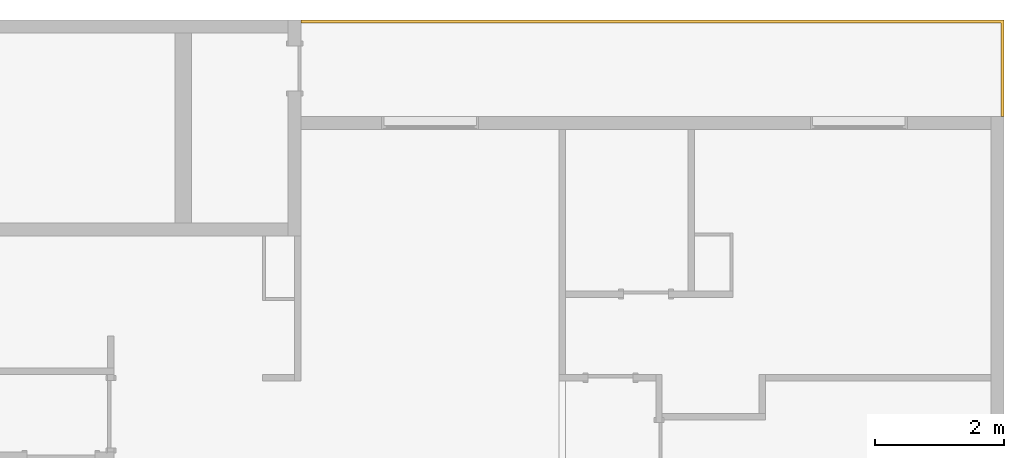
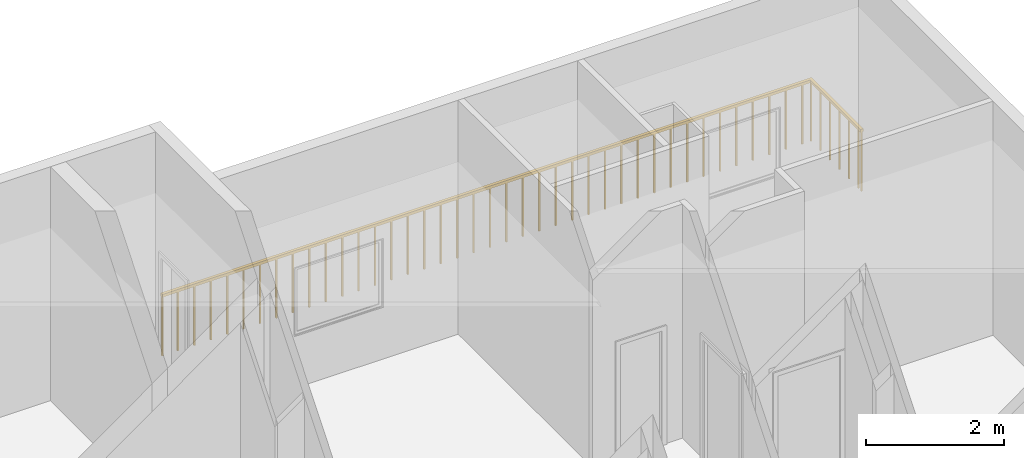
# One storey, part 8 of 8: 1 railing.
"""IFC2X3 building model written with IfcOpenShell, lengths in metres."""

from ifc_helpers import new_model, entity, si_unit, converted_unit, derived_unit, direction, frame, origin, place, context, subcontext, project, spatial, faceted_brep, material, material_list, element, save


model = new_model("IFC2X3")

# Units and contexts
model_context = context("Model", 3, precision=1e-05, world=origin(), true_north=direction((6.123031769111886e-17, 1.0)))
body_context = subcontext(model_context, "Body", "Model", "MODEL_VIEW")
ifc_project = project(units=[si_unit("LENGTHUNIT", "METRE"), si_unit("AREAUNIT", "SQUARE_METRE"), si_unit("VOLUMEUNIT", "CUBIC_METRE"), converted_unit("PLANEANGLEUNIT", "DEGREE", entity("IfcRatioMeasure", 0.017453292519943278), si_unit("PLANEANGLEUNIT", "RADIAN"), dimensions=[0, 0, 0, 0, 0, 0, 0]), si_unit("MASSUNIT", "GRAM", prefix="KILO"), derived_unit("MASSDENSITYUNIT", [(si_unit("MASSUNIT", "GRAM", prefix="KILO"), 1), (si_unit("LENGTHUNIT", "METRE"), -3)]), derived_unit("MOMENTOFINERTIAUNIT", [(si_unit("LENGTHUNIT", "METRE"), 4)]), si_unit("TIMEUNIT", "SECOND"), si_unit("FREQUENCYUNIT", "HERTZ"), si_unit("THERMODYNAMICTEMPERATUREUNIT", "DEGREE_CELSIUS"), derived_unit("THERMALTRANSMITTANCEUNIT", [(si_unit("MASSUNIT", "GRAM", prefix="KILO"), 1), (si_unit("THERMODYNAMICTEMPERATUREUNIT", "KELVIN"), -1), (si_unit("TIMEUNIT", "SECOND"), -3)]), derived_unit("VOLUMETRICFLOWRATEUNIT", [(si_unit("LENGTHUNIT", "METRE"), 3), (si_unit("TIMEUNIT", "SECOND"), -1)]), derived_unit("MASSFLOWRATEUNIT", [(si_unit("MASSUNIT", "GRAM", prefix="KILO"), 1), (si_unit("TIMEUNIT", "SECOND"), -1)]), derived_unit("ROTATIONALFREQUENCYUNIT", [(si_unit("TIMEUNIT", "SECOND"), -1)]), si_unit("ELECTRICCURRENTUNIT", "AMPERE"), si_unit("ELECTRICVOLTAGEUNIT", "VOLT"), si_unit("POWERUNIT", "WATT"), si_unit("FORCEUNIT", "NEWTON", prefix="KILO"), si_unit("ILLUMINANCEUNIT", "LUX"), si_unit("LUMINOUSFLUXUNIT", "LUMEN"), si_unit("LUMINOUSINTENSITYUNIT", "CANDELA"), derived_unit("USERDEFINED", [(si_unit("MASSUNIT", "GRAM", prefix="KILO"), -1), (si_unit("LENGTHUNIT", "METRE"), -2), (si_unit("TIMEUNIT", "SECOND"), 3), (si_unit("LUMINOUSFLUXUNIT", "LUMEN"), 1)]), derived_unit("SOUNDPOWERUNIT", [(si_unit("MASSUNIT", "GRAM", prefix="KILO"), 1), (si_unit("LENGTHUNIT", "METRE"), 2), (si_unit("TIMEUNIT", "SECOND"), -3)]), derived_unit("SOUNDPRESSUREUNIT", [(si_unit("MASSUNIT", "GRAM", prefix="KILO"), 1), (si_unit("LENGTHUNIT", "METRE"), -1), (si_unit("TIMEUNIT", "SECOND"), -2)]), derived_unit("LINEARVELOCITYUNIT", [(si_unit("LENGTHUNIT", "METRE"), 1), (si_unit("TIMEUNIT", "SECOND"), -1)]), si_unit("PRESSUREUNIT", "PASCAL"), derived_unit("USERDEFINED", [(si_unit("LENGTHUNIT", "METRE"), -2), (si_unit("MASSUNIT", "GRAM", prefix="KILO"), 1), (si_unit("TIMEUNIT", "SECOND"), -2)]), derived_unit("LINEARFORCEUNIT", [(si_unit("MASSUNIT", "GRAM", prefix="KILO"), 1), (si_unit("LENGTHUNIT", "METRE"), 1), (si_unit("TIMEUNIT", "SECOND"), -2), (si_unit("LENGTHUNIT", "METRE"), -1)]), derived_unit("PLANARFORCEUNIT", [(si_unit("MASSUNIT", "GRAM", prefix="KILO"), 1), (si_unit("LENGTHUNIT", "METRE"), 1), (si_unit("TIMEUNIT", "SECOND"), -2), (si_unit("LENGTHUNIT", "METRE"), -2)])], contexts=[model_context])

# Site, building, storey
site_placement = place(None, origin())
site = spatial("IfcSite", under=ifc_project, at=site_placement, Name="Default", CompositionType="ELEMENT")
building_placement = place(site_placement, origin())
building = spatial("IfcBuilding", under=site, at=building_placement, CompositionType="ELEMENT")
storey_placement = place(building_placement, frame((0.0, 0.0, 1.1999999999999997)))
storey = spatial("IfcBuildingStorey", under=building, at=storey_placement, Name="G0", CompositionType="ELEMENT", Elevation=1.1999999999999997)

# Railing
ifc_material = material(Name="<Unnamed>")
ifc_material_list = material_list([ifc_material, ifc_material, ifc_material, ifc_material, ifc_material, ifc_material, ifc_material, ifc_material, ifc_material, ifc_material, ifc_material, ifc_material, ifc_material, ifc_material, ifc_material, ifc_material, ifc_material, ifc_material, ifc_material, ifc_material, ifc_material, ifc_material, ifc_material, ifc_material, ifc_material, ifc_material, ifc_material, ifc_material, ifc_material, ifc_material, ifc_material, ifc_material, ifc_material, ifc_material, ifc_material, ifc_material, ifc_material, ifc_material, ifc_material, ifc_material, ifc_material, ifc_material, ifc_material, ifc_material, ifc_material, ifc_material, ifc_material, ifc_material])
railing_placement = place(storey_placement, frame((18.007683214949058, 4.497690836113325, 0.0)))
element("IfcRailing", 1, at=railing_placement, inside=storey, material=ifc_material_list, Name="Railing:1100mm", ObjectType="Railing:1100mm", PredefinedType="NOTDEFINED", context=body_context, shape_type="Brep", body=[
    faceted_brep([(10.887499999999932, 0.11250000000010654, 1.0499999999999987), (10.887499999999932, 0.11250000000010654, 0.0), (10.862499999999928, 0.11250000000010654, 0.0), (10.862499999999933, 0.11250000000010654, 1.0499999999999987), (10.862499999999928, 0.0875000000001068, 0.0), (10.862499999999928, 0.08750000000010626, 1.0499999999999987), (10.887499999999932, 0.0875000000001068, 0.0), (10.887499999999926, 0.0875000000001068, 1.0499999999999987)], [[[0, 1, 2, 3]], [[3, 2, 4, 5]], [[5, 4, 6, 7]], [[1, 0, 7, 6]], [[0, 3, 5, 7]], [[2, 1, 6, 4]]]),
    faceted_brep([(10.887499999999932, 0.38750000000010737, 1.0499999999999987), (10.887499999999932, 0.38750000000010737, 0.0), (10.862499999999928, 0.38750000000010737, 0.0), (10.862499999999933, 0.38750000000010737, 1.0499999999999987), (10.862499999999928, 0.36250000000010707, 0.0), (10.862499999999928, 0.3625000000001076, 1.0499999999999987), (10.887499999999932, 0.36250000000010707, 0.0), (10.887499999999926, 0.36250000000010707, 1.0499999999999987)], [[[0, 1, 2, 3]], [[3, 2, 4, 5]], [[5, 4, 6, 7]], [[1, 0, 7, 6]], [[0, 3, 5, 7]], [[2, 1, 6, 4]]]),
    faceted_brep([(10.887499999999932, 0.6625000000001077, 1.0499999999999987), (10.887499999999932, 0.6625000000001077, 0.0), (10.862499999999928, 0.6625000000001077, 0.0), (10.862499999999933, 0.6625000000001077, 1.0499999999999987), (10.862499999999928, 0.6375000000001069, 0.0), (10.862499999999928, 0.637500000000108, 1.0499999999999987), (10.887499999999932, 0.6375000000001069, 0.0), (10.887499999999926, 0.6375000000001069, 1.0499999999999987)], [[[0, 1, 2, 3]], [[3, 2, 4, 5]], [[5, 4, 6, 7]], [[1, 0, 7, 6]], [[0, 3, 5, 7]], [[2, 1, 6, 4]]]),
    faceted_brep([(10.887499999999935, 0.9375000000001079, 1.0499999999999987), (10.887499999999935, 0.9375000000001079, 0.0), (10.862499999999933, 0.9375000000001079, 0.0), (10.862499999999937, 0.9375000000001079, 1.0499999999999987), (10.862499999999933, 0.9125000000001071, 0.0), (10.862499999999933, 0.9125000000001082, 1.0499999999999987), (10.887499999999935, 0.9125000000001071, 0.0), (10.887499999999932, 0.9125000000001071, 1.0499999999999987)], [[[0, 1, 2, 3]], [[3, 2, 4, 5]], [[5, 4, 6, 7]], [[1, 0, 7, 6]], [[0, 3, 5, 7]], [[2, 1, 6, 4]]]),
    faceted_brep([(10.887499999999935, 1.2125000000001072, 1.0499999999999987), (10.887499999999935, 1.2125000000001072, 0.0), (10.862499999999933, 1.2125000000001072, 0.0), (10.862499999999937, 1.2125000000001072, 1.0499999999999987), (10.862499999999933, 1.1875000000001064, 0.0), (10.862499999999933, 1.1875000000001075, 1.0499999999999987), (10.887499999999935, 1.1875000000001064, 0.0), (10.887499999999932, 1.1875000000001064, 1.0499999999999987)], [[[0, 1, 2, 3]], [[3, 2, 4, 5]], [[5, 4, 6, 7]], [[1, 0, 7, 6]], [[0, 3, 5, 7]], [[2, 1, 6, 4]]]),
    faceted_brep([(10.712500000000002, 1.4875000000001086, 1.0499999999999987), (10.712500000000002, 1.4875000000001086, 0.0), (10.712500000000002, 1.4625000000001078, 0.0), (10.712500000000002, 1.4625000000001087, 1.0499999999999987), (10.737500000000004, 1.4625000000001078, 0.0), (10.7375, 1.4625000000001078, 1.0499999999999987), (10.737500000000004, 1.4875000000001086, 0.0), (10.737500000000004, 1.4875000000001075, 1.0499999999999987)], [[[0, 1, 2, 3]], [[3, 2, 4, 5]], [[5, 4, 6, 7]], [[1, 0, 7, 6]], [[0, 3, 5, 7]], [[2, 1, 6, 4]]]),
    faceted_brep([(10.437500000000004, 1.4875000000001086, 1.0499999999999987), (10.437500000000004, 1.4875000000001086, 0.0), (10.437500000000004, 1.4625000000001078, 0.0), (10.437500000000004, 1.4625000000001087, 1.0499999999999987), (10.462500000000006, 1.4625000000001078, 0.0), (10.462500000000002, 1.4625000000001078, 1.0499999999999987), (10.462500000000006, 1.4875000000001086, 0.0), (10.462500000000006, 1.4875000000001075, 1.0499999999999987)], [[[0, 1, 2, 3]], [[3, 2, 4, 5]], [[5, 4, 6, 7]], [[1, 0, 7, 6]], [[0, 3, 5, 7]], [[2, 1, 6, 4]]]),
    faceted_brep([(10.162500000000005, 1.4875000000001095, 1.0499999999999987), (10.162500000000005, 1.4875000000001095, 0.0), (10.162500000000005, 1.4625000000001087, 0.0), (10.162500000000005, 1.4625000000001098, 1.0499999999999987), (10.187500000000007, 1.4625000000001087, 0.0), (10.187500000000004, 1.4625000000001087, 1.0499999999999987), (10.187500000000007, 1.4875000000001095, 0.0), (10.187500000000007, 1.4875000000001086, 1.0499999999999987)], [[[0, 1, 2, 3]], [[3, 2, 4, 5]], [[5, 4, 6, 7]], [[1, 0, 7, 6]], [[0, 3, 5, 7]], [[2, 1, 6, 4]]]),
    faceted_brep([(9.887499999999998, 1.4875000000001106, 1.0499999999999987), (9.887499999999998, 1.4875000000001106, 0.0), (9.887499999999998, 1.4625000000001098, 0.0), (9.887499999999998, 1.462500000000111, 1.0499999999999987), (9.912500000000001, 1.4625000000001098, 0.0), (9.912499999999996, 1.4625000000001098, 1.0499999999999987), (9.912500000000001, 1.4875000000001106, 0.0), (9.912500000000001, 1.4875000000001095, 1.0499999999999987)], [[[0, 1, 2, 3]], [[3, 2, 4, 5]], [[5, 4, 6, 7]], [[1, 0, 7, 6]], [[0, 3, 5, 7]], [[2, 1, 6, 4]]]),
    faceted_brep([(9.6125, 1.4875000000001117, 1.0499999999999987), (9.6125, 1.4875000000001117, 0.0), (9.6125, 1.462500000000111, 0.0), (9.6125, 1.462500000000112, 1.0499999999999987), (9.637500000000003, 1.462500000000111, 0.0), (9.6375, 1.462500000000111, 1.0499999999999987), (9.637500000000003, 1.4875000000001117, 0.0), (9.637500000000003, 1.4875000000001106, 1.0499999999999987)], [[[0, 1, 2, 3]], [[3, 2, 4, 5]], [[5, 4, 6, 7]], [[1, 0, 7, 6]], [[0, 3, 5, 7]], [[2, 1, 6, 4]]]),
    faceted_brep([(9.337500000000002, 1.4875000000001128, 1.0499999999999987), (9.337500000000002, 1.4875000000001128, 0.0), (9.337500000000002, 1.462500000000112, 0.0), (9.337500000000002, 1.4625000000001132, 1.0499999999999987), (9.362500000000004, 1.462500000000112, 0.0), (9.3625, 1.462500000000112, 1.0499999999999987), (9.362500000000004, 1.4875000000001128, 0.0), (9.362500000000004, 1.4875000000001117, 1.0499999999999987)], [[[0, 1, 2, 3]], [[3, 2, 4, 5]], [[5, 4, 6, 7]], [[1, 0, 7, 6]], [[0, 3, 5, 7]], [[2, 1, 6, 4]]]),
    faceted_brep([(9.062500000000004, 1.487500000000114, 1.0499999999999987), (9.062500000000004, 1.487500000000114, 0.0), (9.062500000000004, 1.4625000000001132, 0.0), (9.062500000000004, 1.4625000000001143, 1.0499999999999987), (9.087500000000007, 1.4625000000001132, 0.0), (9.087500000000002, 1.4625000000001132, 1.0499999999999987), (9.087500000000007, 1.487500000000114, 0.0), (9.087500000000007, 1.4875000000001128, 1.0499999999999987)], [[[0, 1, 2, 3]], [[3, 2, 4, 5]], [[5, 4, 6, 7]], [[1, 0, 7, 6]], [[0, 3, 5, 7]], [[2, 1, 6, 4]]]),
    faceted_brep([(8.787500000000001, 1.487500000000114, 1.0499999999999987), (8.787500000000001, 1.487500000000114, 0.0), (8.787500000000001, 1.4625000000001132, 0.0), (8.787500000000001, 1.4625000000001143, 1.0499999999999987), (8.812500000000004, 1.4625000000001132, 0.0), (8.8125, 1.4625000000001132, 1.0499999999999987), (8.812500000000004, 1.487500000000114, 0.0), (8.812500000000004, 1.4875000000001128, 1.0499999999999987)], [[[0, 1, 2, 3]], [[3, 2, 4, 5]], [[5, 4, 6, 7]], [[1, 0, 7, 6]], [[0, 3, 5, 7]], [[2, 1, 6, 4]]]),
    faceted_brep([(8.5125, 1.487500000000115, 1.0499999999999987), (8.5125, 1.487500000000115, 0.0), (8.5125, 1.4625000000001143, 0.0), (8.5125, 1.4625000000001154, 1.0499999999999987), (8.537500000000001, 1.4625000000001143, 0.0), (8.537499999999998, 1.4625000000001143, 1.0499999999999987), (8.537500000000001, 1.487500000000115, 0.0), (8.537500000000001, 1.487500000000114, 1.0499999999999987)], [[[0, 1, 2, 3]], [[3, 2, 4, 5]], [[5, 4, 6, 7]], [[1, 0, 7, 6]], [[0, 3, 5, 7]], [[2, 1, 6, 4]]]),
    faceted_brep([(8.2375, 1.4875000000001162, 1.0499999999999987), (8.2375, 1.4875000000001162, 0.0), (8.2375, 1.4625000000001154, 0.0), (8.2375, 1.4625000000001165, 1.0499999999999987), (8.262500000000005, 1.4625000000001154, 0.0), (8.2625, 1.4625000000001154, 1.0499999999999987), (8.262500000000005, 1.4875000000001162, 0.0), (8.262500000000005, 1.487500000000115, 1.0499999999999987)], [[[0, 1, 2, 3]], [[3, 2, 4, 5]], [[5, 4, 6, 7]], [[1, 0, 7, 6]], [[0, 3, 5, 7]], [[2, 1, 6, 4]]]),
    faceted_brep([(7.962500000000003, 1.4875000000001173, 1.0499999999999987), (7.962500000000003, 1.4875000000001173, 0.0), (7.962500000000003, 1.4625000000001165, 0.0), (7.962500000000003, 1.4625000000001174, 1.0499999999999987), (7.987500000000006, 1.4625000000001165, 0.0), (7.987500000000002, 1.4625000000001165, 1.0499999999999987), (7.987500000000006, 1.4875000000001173, 0.0), (7.987500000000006, 1.4875000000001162, 1.0499999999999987)], [[[0, 1, 2, 3]], [[3, 2, 4, 5]], [[5, 4, 6, 7]], [[1, 0, 7, 6]], [[0, 3, 5, 7]], [[2, 1, 6, 4]]]),
    faceted_brep([(7.6875, 1.4875000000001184, 1.0499999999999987), (7.6875, 1.4875000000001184, 0.0), (7.6875, 1.4625000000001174, 0.0), (7.6875, 1.4625000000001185, 1.0499999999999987), (7.712500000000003, 1.4625000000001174, 0.0), (7.712499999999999, 1.4625000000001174, 1.0499999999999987), (7.712500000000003, 1.4875000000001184, 0.0), (7.712500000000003, 1.4875000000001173, 1.0499999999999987)], [[[0, 1, 2, 3]], [[3, 2, 4, 5]], [[5, 4, 6, 7]], [[1, 0, 7, 6]], [[0, 3, 5, 7]], [[2, 1, 6, 4]]]),
    faceted_brep([(7.412500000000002, 1.4875000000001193, 1.0499999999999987), (7.412500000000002, 1.4875000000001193, 0.0), (7.412500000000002, 1.4625000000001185, 0.0), (7.412500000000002, 1.4625000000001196, 1.0499999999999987), (7.437500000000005, 1.4625000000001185, 0.0), (7.437500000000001, 1.4625000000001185, 1.0499999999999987), (7.437500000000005, 1.4875000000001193, 0.0), (7.437500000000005, 1.4875000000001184, 1.0499999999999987)], [[[0, 1, 2, 3]], [[3, 2, 4, 5]], [[5, 4, 6, 7]], [[1, 0, 7, 6]], [[0, 3, 5, 7]], [[2, 1, 6, 4]]]),
    faceted_brep([(7.137499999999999, 1.4875000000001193, 1.0499999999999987), (7.137499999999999, 1.4875000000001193, 0.0), (7.137499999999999, 1.4625000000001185, 0.0), (7.137499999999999, 1.4625000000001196, 1.0499999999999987), (7.162500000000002, 1.4625000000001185, 0.0), (7.162499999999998, 1.4625000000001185, 1.0499999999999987), (7.162500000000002, 1.4875000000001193, 0.0), (7.162500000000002, 1.4875000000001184, 1.0499999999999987)], [[[0, 1, 2, 3]], [[3, 2, 4, 5]], [[5, 4, 6, 7]], [[1, 0, 7, 6]], [[0, 3, 5, 7]], [[2, 1, 6, 4]]]),
    faceted_brep([(6.862500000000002, 1.4875000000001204, 1.0499999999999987), (6.862500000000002, 1.4875000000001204, 0.0), (6.862500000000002, 1.4625000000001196, 0.0), (6.862500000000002, 1.4625000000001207, 1.0499999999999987), (6.887500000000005, 1.4625000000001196, 0.0), (6.8875, 1.4625000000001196, 1.0499999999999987), (6.887500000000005, 1.4875000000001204, 0.0), (6.887500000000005, 1.4875000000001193, 1.0499999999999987)], [[[0, 1, 2, 3]], [[3, 2, 4, 5]], [[5, 4, 6, 7]], [[1, 0, 7, 6]], [[0, 3, 5, 7]], [[2, 1, 6, 4]]]),
    faceted_brep([(6.587500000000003, 1.4875000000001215, 1.0499999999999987), (6.587500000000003, 1.4875000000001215, 0.0), (6.587500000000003, 1.4625000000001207, 0.0), (6.587500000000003, 1.4625000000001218, 1.0499999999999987), (6.612500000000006, 1.4625000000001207, 0.0), (6.612500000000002, 1.4625000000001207, 1.0499999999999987), (6.612500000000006, 1.4875000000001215, 0.0), (6.612500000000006, 1.4875000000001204, 1.0499999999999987)], [[[0, 1, 2, 3]], [[3, 2, 4, 5]], [[5, 4, 6, 7]], [[1, 0, 7, 6]], [[0, 3, 5, 7]], [[2, 1, 6, 4]]]),
    faceted_brep([(6.312500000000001, 1.4875000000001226, 1.0499999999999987), (6.312500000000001, 1.4875000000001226, 0.0), (6.312500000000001, 1.4625000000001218, 0.0), (6.312500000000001, 1.462500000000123, 1.0499999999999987), (6.337500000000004, 1.4625000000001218, 0.0), (6.3374999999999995, 1.4625000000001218, 1.0499999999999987), (6.337500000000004, 1.4875000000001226, 0.0), (6.337500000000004, 1.4875000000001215, 1.0499999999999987)], [[[0, 1, 2, 3]], [[3, 2, 4, 5]], [[5, 4, 6, 7]], [[1, 0, 7, 6]], [[0, 3, 5, 7]], [[2, 1, 6, 4]]]),
    faceted_brep([(6.037500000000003, 1.4875000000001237, 1.0499999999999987), (6.037500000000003, 1.4875000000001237, 0.0), (6.037500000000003, 1.462500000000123, 0.0), (6.037500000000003, 1.462500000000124, 1.0499999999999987), (6.062500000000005, 1.462500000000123, 0.0), (6.062500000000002, 1.462500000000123, 1.0499999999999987), (6.062500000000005, 1.4875000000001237, 0.0), (6.062500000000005, 1.4875000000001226, 1.0499999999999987)], [[[0, 1, 2, 3]], [[3, 2, 4, 5]], [[5, 4, 6, 7]], [[1, 0, 7, 6]], [[0, 3, 5, 7]], [[2, 1, 6, 4]]]),
    faceted_brep([(5.7625, 1.4875000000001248, 1.0499999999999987), (5.7625, 1.4875000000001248, 0.0), (5.7625, 1.462500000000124, 0.0), (5.7625, 1.4625000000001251, 1.0499999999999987), (5.787500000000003, 1.462500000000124, 0.0), (5.787499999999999, 1.462500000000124, 1.0499999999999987), (5.787500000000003, 1.4875000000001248, 0.0), (5.787500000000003, 1.4875000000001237, 1.0499999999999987)], [[[0, 1, 2, 3]], [[3, 2, 4, 5]], [[5, 4, 6, 7]], [[1, 0, 7, 6]], [[0, 3, 5, 7]], [[2, 1, 6, 4]]]),
    faceted_brep([(5.4875000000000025, 1.4875000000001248, 1.0499999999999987), (5.4875000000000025, 1.4875000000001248, 0.0), (5.4875000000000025, 1.462500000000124, 0.0), (5.4875000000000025, 1.4625000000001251, 1.0499999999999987), (5.5125000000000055, 1.462500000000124, 0.0), (5.512500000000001, 1.462500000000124, 1.0499999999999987), (5.5125000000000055, 1.4875000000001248, 0.0), (5.5125000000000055, 1.4875000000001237, 1.0499999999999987)], [[[0, 1, 2, 3]], [[3, 2, 4, 5]], [[5, 4, 6, 7]], [[1, 0, 7, 6]], [[0, 3, 5, 7]], [[2, 1, 6, 4]]]),
    faceted_brep([(5.212500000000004, 1.487500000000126, 1.0499999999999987), (5.212500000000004, 1.487500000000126, 0.0), (5.212500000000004, 1.4625000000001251, 0.0), (5.212500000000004, 1.462500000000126, 1.0499999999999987), (5.237500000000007, 1.4625000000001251, 0.0), (5.2375000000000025, 1.4625000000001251, 1.0499999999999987), (5.237500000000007, 1.487500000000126, 0.0), (5.237500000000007, 1.4875000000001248, 1.0499999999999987)], [[[0, 1, 2, 3]], [[3, 2, 4, 5]], [[5, 4, 6, 7]], [[1, 0, 7, 6]], [[0, 3, 5, 7]], [[2, 1, 6, 4]]]),
    faceted_brep([(4.937500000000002, 1.487500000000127, 1.0499999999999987), (4.937500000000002, 1.487500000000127, 0.0), (4.937500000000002, 1.462500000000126, 0.0), (4.937500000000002, 1.4625000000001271, 1.0499999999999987), (4.962500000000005, 1.462500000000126, 0.0), (4.9625, 1.462500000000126, 1.0499999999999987), (4.962500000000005, 1.487500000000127, 0.0), (4.962500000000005, 1.487500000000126, 1.0499999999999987)], [[[0, 1, 2, 3]], [[3, 2, 4, 5]], [[5, 4, 6, 7]], [[1, 0, 7, 6]], [[0, 3, 5, 7]], [[2, 1, 6, 4]]]),
    faceted_brep([(4.662499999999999, 1.487500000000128, 1.0499999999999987), (4.662499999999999, 1.487500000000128, 0.0), (4.662499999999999, 1.4625000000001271, 0.0), (4.662499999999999, 1.4625000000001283, 1.0499999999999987), (4.687500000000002, 1.4625000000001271, 0.0), (4.687499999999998, 1.4625000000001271, 1.0499999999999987), (4.687500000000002, 1.487500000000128, 0.0), (4.687500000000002, 1.487500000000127, 1.0499999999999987)], [[[0, 1, 2, 3]], [[3, 2, 4, 5]], [[5, 4, 6, 7]], [[1, 0, 7, 6]], [[0, 3, 5, 7]], [[2, 1, 6, 4]]]),
    faceted_brep([(4.387500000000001, 1.487500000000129, 1.0499999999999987), (4.387500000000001, 1.487500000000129, 0.0), (4.387500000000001, 1.4625000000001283, 0.0), (4.387500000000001, 1.4625000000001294, 1.0499999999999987), (4.412500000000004, 1.4625000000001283, 0.0), (4.4125, 1.4625000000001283, 1.0499999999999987), (4.412500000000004, 1.487500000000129, 0.0), (4.412500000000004, 1.487500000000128, 1.0499999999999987)], [[[0, 1, 2, 3]], [[3, 2, 4, 5]], [[5, 4, 6, 7]], [[1, 0, 7, 6]], [[0, 3, 5, 7]], [[2, 1, 6, 4]]]),
    faceted_brep([(4.1125000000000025, 1.4875000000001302, 1.0499999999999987), (4.1125000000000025, 1.4875000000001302, 0.0), (4.1125000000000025, 1.4625000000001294, 0.0), (4.1125000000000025, 1.4625000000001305, 1.0499999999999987), (4.1375000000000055, 1.4625000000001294, 0.0), (4.137500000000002, 1.4625000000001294, 1.0499999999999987), (4.1375000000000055, 1.4875000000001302, 0.0), (4.1375000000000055, 1.487500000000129, 1.0499999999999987)], [[[0, 1, 2, 3]], [[3, 2, 4, 5]], [[5, 4, 6, 7]], [[1, 0, 7, 6]], [[0, 3, 5, 7]], [[2, 1, 6, 4]]]),
    faceted_brep([(3.8375000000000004, 1.4875000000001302, 1.0499999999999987), (3.8375000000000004, 1.4875000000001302, 0.0), (3.8375000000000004, 1.4625000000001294, 0.0), (3.8375000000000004, 1.4625000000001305, 1.0499999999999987), (3.8625000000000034, 1.4625000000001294, 0.0), (3.862499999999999, 1.4625000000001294, 1.0499999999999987), (3.8625000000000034, 1.4875000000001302, 0.0), (3.8625000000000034, 1.487500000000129, 1.0499999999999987)], [[[0, 1, 2, 3]], [[3, 2, 4, 5]], [[5, 4, 6, 7]], [[1, 0, 7, 6]], [[0, 3, 5, 7]], [[2, 1, 6, 4]]]),
    faceted_brep([(3.562500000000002, 1.4875000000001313, 1.0499999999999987), (3.562500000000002, 1.4875000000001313, 0.0), (3.562500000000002, 1.4625000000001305, 0.0), (3.562500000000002, 1.4625000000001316, 1.0499999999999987), (3.5875000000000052, 1.4625000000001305, 0.0), (3.587500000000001, 1.4625000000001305, 1.0499999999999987), (3.5875000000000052, 1.4875000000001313, 0.0), (3.5875000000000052, 1.4875000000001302, 1.0499999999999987)], [[[0, 1, 2, 3]], [[3, 2, 4, 5]], [[5, 4, 6, 7]], [[1, 0, 7, 6]], [[0, 3, 5, 7]], [[2, 1, 6, 4]]]),
    faceted_brep([(3.2874999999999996, 1.4875000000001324, 1.0499999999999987), (3.2874999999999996, 1.4875000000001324, 0.0), (3.2874999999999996, 1.4625000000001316, 0.0), (3.2874999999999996, 1.4625000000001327, 1.0499999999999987), (3.3125000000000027, 1.4625000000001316, 0.0), (3.3124999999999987, 1.4625000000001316, 1.0499999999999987), (3.3125000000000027, 1.4875000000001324, 0.0), (3.3125000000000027, 1.4875000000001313, 1.0499999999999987)], [[[0, 1, 2, 3]], [[3, 2, 4, 5]], [[5, 4, 6, 7]], [[1, 0, 7, 6]], [[0, 3, 5, 7]], [[2, 1, 6, 4]]]),
    faceted_brep([(3.0125000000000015, 1.4875000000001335, 1.0499999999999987), (3.0125000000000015, 1.4875000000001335, 0.0), (3.0125000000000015, 1.4625000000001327, 0.0), (3.0125000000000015, 1.4625000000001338, 1.0499999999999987), (3.0375000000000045, 1.4625000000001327, 0.0), (3.0375000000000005, 1.4625000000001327, 1.0499999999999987), (3.0375000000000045, 1.4875000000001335, 0.0), (3.0375000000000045, 1.4875000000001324, 1.0499999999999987)], [[[0, 1, 2, 3]], [[3, 2, 4, 5]], [[5, 4, 6, 7]], [[1, 0, 7, 6]], [[0, 3, 5, 7]], [[2, 1, 6, 4]]]),
    faceted_brep([(2.737500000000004, 1.4875000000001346, 1.0499999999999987), (2.737500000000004, 1.4875000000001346, 0.0), (2.737500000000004, 1.4625000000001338, 0.0), (2.737500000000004, 1.4625000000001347, 1.0499999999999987), (2.7625000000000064, 1.4625000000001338, 0.0), (2.7625000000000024, 1.4625000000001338, 1.0499999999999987), (2.7625000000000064, 1.4875000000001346, 0.0), (2.7625000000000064, 1.4875000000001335, 1.0499999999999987)], [[[0, 1, 2, 3]], [[3, 2, 4, 5]], [[5, 4, 6, 7]], [[1, 0, 7, 6]], [[0, 3, 5, 7]], [[2, 1, 6, 4]]]),
    faceted_brep([(2.4625000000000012, 1.4875000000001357, 1.0499999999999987), (2.4625000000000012, 1.4875000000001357, 0.0), (2.4625000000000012, 1.4625000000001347, 0.0), (2.4625000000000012, 1.4625000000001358, 1.0499999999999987), (2.4875000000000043, 1.4625000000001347, 0.0), (2.4875, 1.4625000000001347, 1.0499999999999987), (2.4875000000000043, 1.4875000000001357, 0.0), (2.4875000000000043, 1.4875000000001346, 1.0499999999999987)], [[[0, 1, 2, 3]], [[3, 2, 4, 5]], [[5, 4, 6, 7]], [[1, 0, 7, 6]], [[0, 3, 5, 7]], [[2, 1, 6, 4]]]),
    faceted_brep([(2.1874999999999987, 1.4875000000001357, 1.0499999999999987), (2.1874999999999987, 1.4875000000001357, 0.0), (2.1874999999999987, 1.4625000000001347, 0.0), (2.1874999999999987, 1.4625000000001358, 1.0499999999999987), (2.2125000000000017, 1.4625000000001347, 0.0), (2.2124999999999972, 1.4625000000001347, 1.0499999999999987), (2.2125000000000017, 1.4875000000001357, 0.0), (2.2125000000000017, 1.4875000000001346, 1.0499999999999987)], [[[0, 1, 2, 3]], [[3, 2, 4, 5]], [[5, 4, 6, 7]], [[1, 0, 7, 6]], [[0, 3, 5, 7]], [[2, 1, 6, 4]]]),
    faceted_brep([(1.9125000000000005, 1.4875000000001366, 1.0499999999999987), (1.9125000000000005, 1.4875000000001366, 0.0), (1.9125000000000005, 1.4625000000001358, 0.0), (1.9125000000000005, 1.462500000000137, 1.0499999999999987), (1.9375000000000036, 1.4625000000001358, 0.0), (1.9374999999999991, 1.4625000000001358, 1.0499999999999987), (1.9375000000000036, 1.4875000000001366, 0.0), (1.9375000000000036, 1.4875000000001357, 1.0499999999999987)], [[[0, 1, 2, 3]], [[3, 2, 4, 5]], [[5, 4, 6, 7]], [[1, 0, 7, 6]], [[0, 3, 5, 7]], [[2, 1, 6, 4]]]),
    faceted_brep([(1.6375000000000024, 1.4875000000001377, 1.0499999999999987), (1.6375000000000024, 1.4875000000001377, 0.0), (1.6375000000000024, 1.462500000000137, 0.0), (1.6375000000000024, 1.462500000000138, 1.0499999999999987), (1.6625000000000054, 1.462500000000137, 0.0), (1.662500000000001, 1.462500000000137, 1.0499999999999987), (1.6625000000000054, 1.4875000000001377, 0.0), (1.6625000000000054, 1.4875000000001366, 1.0499999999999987)], [[[0, 1, 2, 3]], [[3, 2, 4, 5]], [[5, 4, 6, 7]], [[1, 0, 7, 6]], [[0, 3, 5, 7]], [[2, 1, 6, 4]]]),
    faceted_brep([(1.362500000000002, 1.4875000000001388, 1.0499999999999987), (1.362500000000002, 1.4875000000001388, 0.0), (1.362500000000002, 1.462500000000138, 0.0), (1.362500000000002, 1.4625000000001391, 1.0499999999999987), (1.3875000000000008, 1.462500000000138, 0.0), (1.3875000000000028, 1.462500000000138, 1.0499999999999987), (1.3875000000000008, 1.4875000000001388, 0.0), (1.3875000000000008, 1.4875000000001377, 1.0499999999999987)], [[[0, 1, 2, 3]], [[3, 2, 4, 5]], [[5, 4, 6, 7]], [[1, 0, 7, 6]], [[0, 3, 5, 7]], [[2, 1, 6, 4]]]),
    faceted_brep([(1.087500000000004, 1.48750000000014, 1.0499999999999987), (1.087500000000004, 1.48750000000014, 0.0), (1.087500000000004, 1.4625000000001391, 0.0), (1.087500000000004, 1.4625000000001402, 1.0499999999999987), (1.1125000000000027, 1.4625000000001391, 0.0), (1.112500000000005, 1.4625000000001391, 1.0499999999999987), (1.1125000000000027, 1.48750000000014, 0.0), (1.1125000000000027, 1.4875000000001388, 1.0499999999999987)], [[[0, 1, 2, 3]], [[3, 2, 4, 5]], [[5, 4, 6, 7]], [[1, 0, 7, 6]], [[0, 3, 5, 7]], [[2, 1, 6, 4]]]),
    faceted_brep([(0.8125000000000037, 1.487500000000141, 1.0499999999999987), (0.8125000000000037, 1.487500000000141, 0.0), (0.8125000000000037, 1.4625000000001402, 0.0), (0.8125000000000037, 1.4625000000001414, 1.0499999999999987), (0.8375000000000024, 1.4625000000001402, 0.0), (0.8375000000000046, 1.4625000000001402, 1.0499999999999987), (0.8375000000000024, 1.487500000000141, 0.0), (0.8375000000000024, 1.48750000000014, 1.0499999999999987)], [[[0, 1, 2, 3]], [[3, 2, 4, 5]], [[5, 4, 6, 7]], [[1, 0, 7, 6]], [[0, 3, 5, 7]], [[2, 1, 6, 4]]]),
    faceted_brep([(0.5375000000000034, 1.487500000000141, 1.0499999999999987), (0.5375000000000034, 1.487500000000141, 0.0), (0.5375000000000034, 1.4625000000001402, 0.0), (0.5375000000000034, 1.4625000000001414, 1.0499999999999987), (0.5625000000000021, 1.4625000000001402, 0.0), (0.5625000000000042, 1.4625000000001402, 1.0499999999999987), (0.5625000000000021, 1.487500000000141, 0.0), (0.5625000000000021, 1.48750000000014, 1.0499999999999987)], [[[0, 1, 2, 3]], [[3, 2, 4, 5]], [[5, 4, 6, 7]], [[1, 0, 7, 6]], [[0, 3, 5, 7]], [[2, 1, 6, 4]]]),
    faceted_brep([(0.2625000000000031, 1.4875000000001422, 1.0499999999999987), (0.2625000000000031, 1.4875000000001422, 0.0), (0.2625000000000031, 1.4625000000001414, 0.0), (0.2625000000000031, 1.4625000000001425, 1.0499999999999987), (0.2875000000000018, 1.4625000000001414, 0.0), (0.287500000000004, 1.4625000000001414, 1.0499999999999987), (0.2875000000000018, 1.4875000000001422, 0.0), (0.2875000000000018, 1.487500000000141, 1.0499999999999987)], [[[0, 1, 2, 3]], [[3, 2, 4, 5]], [[5, 4, 6, 7]], [[1, 0, 7, 6]], [[0, 3, 5, 7]], [[2, 1, 6, 4]]]),
    faceted_brep([(10.862499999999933, 1.4875000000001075, 1.0499999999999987), (10.862499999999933, 1.4875000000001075, 0.0), (10.862499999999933, 1.4625000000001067, 0.0), (10.862499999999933, 1.4625000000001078, 1.0499999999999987), (10.887499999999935, 1.4625000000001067, 0.0), (10.887499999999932, 1.4625000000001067, 1.0499999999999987), (10.887499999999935, 1.4875000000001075, 0.0), (10.887499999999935, 1.4875000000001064, 1.0499999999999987)], [[[0, 1, 2, 3]], [[3, 2, 4, 5]], [[5, 4, 6, 7]], [[1, 0, 7, 6]], [[0, 3, 5, 7]], [[2, 1, 6, 4]]]),
    faceted_brep([(10.887499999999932, 0.025000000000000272, 1.0499999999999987), (10.887499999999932, 0.025000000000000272, 0.0), (10.862499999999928, 0.025000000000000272, 0.0), (10.862499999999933, 0.025000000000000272, 1.0499999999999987), (10.862499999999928, 0.0, 0.0), (10.862499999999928, 0.0, 1.0499999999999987), (10.887499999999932, 0.0, 0.0), (10.887499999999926, 0.0, 1.0499999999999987)], [[[0, 1, 2, 3]], [[3, 2, 4, 5]], [[5, 4, 6, 7]], [[1, 0, 7, 6]], [[0, 3, 5, 7]], [[2, 1, 6, 4]]]),
    faceted_brep([(0.0, 1.4875000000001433, 1.0499999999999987), (0.0, 1.4875000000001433, 0.0), (0.0, 1.4625000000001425, 0.0), (0.0, 1.4625000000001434, 1.0499999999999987), (0.025000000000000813, 1.4625000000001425, 0.0), (0.025000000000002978, 1.4625000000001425, 1.0499999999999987), (0.025000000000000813, 1.4875000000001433, 0.0), (0.025000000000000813, 1.4875000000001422, 1.0499999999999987)], [[[0, 1, 2, 3]], [[3, 2, 4, 5]], [[5, 4, 6, 7]], [[1, 0, 7, 6]], [[0, 3, 5, 7]], [[2, 1, 6, 4]]]),
    faceted_brep([(0.0, 1.450000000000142, 1.0999999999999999), (0.0, 1.5000000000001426, 1.0999999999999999), (0.0, 1.5000000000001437, 1.0499999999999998), (0.0, 1.450000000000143, 1.0499999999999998), (10.849999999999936, 1.4500000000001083, 1.0999999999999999), (10.899999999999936, 1.500000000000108, 1.0999999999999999), (10.899999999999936, 1.500000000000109, 1.0499999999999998), (10.84999999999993, 1.4500000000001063, 1.0499999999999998), (10.84999999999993, 0.0, 1.0999999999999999), (10.84999999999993, 0.0, 1.0499999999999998), (10.899999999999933, 0.0, 1.0499999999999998), (10.899999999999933, 0.0, 1.0999999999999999)], [[[0, 1, 2, 3]], [[1, 0, 4, 5]], [[2, 1, 5, 6]], [[3, 2, 6, 7]], [[0, 3, 7, 4]], [[8, 9, 10, 11]], [[5, 4, 8, 11]], [[6, 5, 11, 10]], [[7, 6, 10, 9]], [[4, 7, 9, 8]]]),
])

save(model, "model.ifc")
